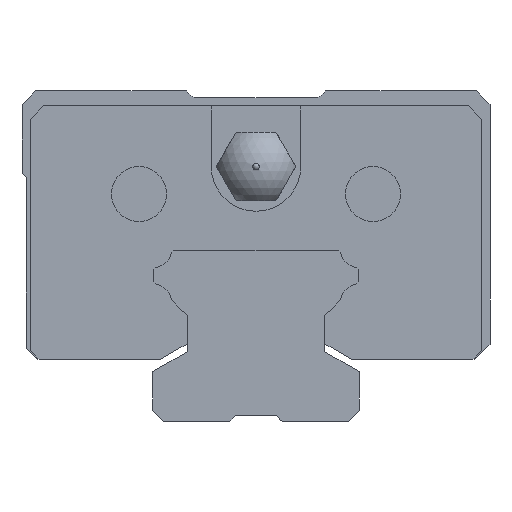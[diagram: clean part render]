
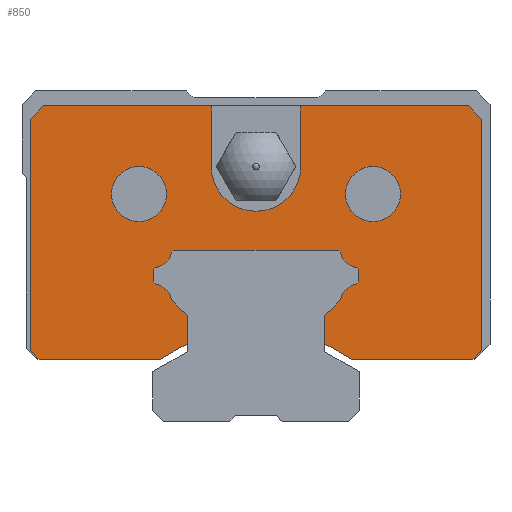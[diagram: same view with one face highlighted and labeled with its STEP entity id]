
A CAD part, front view. The second image highlights one B-rep face of the part: STEP entity #850.
In plain terms, the highlighted planar face has unit normal (0, -1, 0).
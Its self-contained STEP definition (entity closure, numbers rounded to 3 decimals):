
#213=PLANE('',#2619);
#347=LINE('',#3632,#605);
#352=LINE('',#3642,#610);
#355=LINE('',#3648,#613);
#358=LINE('',#3654,#616);
#362=LINE('',#3666,#620);
#365=LINE('',#3672,#623);
#368=LINE('',#3678,#626);
#372=LINE('',#3690,#630);
#375=LINE('',#3696,#633);
#378=LINE('',#3702,#636);
#382=LINE('',#3714,#640);
#385=LINE('',#3720,#643);
#388=LINE('',#3726,#646);
#392=LINE('',#3738,#650);
#395=LINE('',#3744,#653);
#398=LINE('',#3750,#656);
#406=LINE('',#3766,#664);
#447=LINE('',#3861,#705);
#449=LINE('',#3865,#707);
#451=LINE('',#3869,#709);
#456=LINE('',#3879,#714);
#458=LINE('',#3883,#716);
#459=LINE('',#3885,#717);
#461=LINE('',#3889,#719);
#462=LINE('',#3891,#720);
#463=LINE('',#3900,#721);
#464=LINE('',#3901,#722);
#605=VECTOR('',#2968,1.);
#610=VECTOR('',#2975,1.);
#613=VECTOR('',#2980,1.);
#616=VECTOR('',#2985,1.);
#620=VECTOR('',#2997,1.);
#623=VECTOR('',#3002,1.);
#626=VECTOR('',#3007,1.);
#630=VECTOR('',#3019,1.);
#633=VECTOR('',#3024,1.);
#636=VECTOR('',#3029,1.);
#640=VECTOR('',#3041,1.);
#643=VECTOR('',#3046,1.);
#646=VECTOR('',#3051,1.);
#650=VECTOR('',#3063,1.);
#653=VECTOR('',#3068,1.);
#656=VECTOR('',#3073,1.);
#664=VECTOR('',#3083,1.);
#705=VECTOR('',#3166,1.);
#707=VECTOR('',#3170,1.);
#709=VECTOR('',#3172,1.);
#714=VECTOR('',#3179,1.);
#716=VECTOR('',#3183,1.);
#717=VECTOR('',#3186,1.);
#719=VECTOR('',#3190,1.);
#720=VECTOR('',#3193,1.);
#721=VECTOR('',#3202,1.);
#722=VECTOR('',#3203,1.);
#850=ADVANCED_FACE('',(#1021,#1022,#973),#213,.F.);
#973=FACE_OUTER_BOUND('',#1158,.T.);
#1021=FACE_BOUND('',#1156,.T.);
#1022=FACE_BOUND('',#1157,.T.);
#1156=EDGE_LOOP('',(#1697));
#1157=EDGE_LOOP('',(#1698));
#1158=EDGE_LOOP('',(#1699,#1700,#1701,#1702,#1703,#1704,#1705,#1706,#1707,
#1708,#1709,#1710,#1711,#1712,#1713,#1714,#1715,#1716,#1717,#1718,#1719,
#1720,#1721,#1722,#1723,#1724,#1725,#1726,#1727,#1728,#1729,#1730));
#1697=ORIENTED_EDGE('',*,*,#2356,.F.);
#1698=ORIENTED_EDGE('',*,*,#2357,.F.);
#1699=ORIENTED_EDGE('',*,*,#2358,.F.);
#1700=ORIENTED_EDGE('',*,*,#2359,.T.);
#1701=ORIENTED_EDGE('',*,*,#2344,.F.);
#1702=ORIENTED_EDGE('',*,*,#2349,.F.);
#1703=ORIENTED_EDGE('',*,*,#2351,.T.);
#1704=ORIENTED_EDGE('',*,*,#2352,.T.);
#1705=ORIENTED_EDGE('',*,*,#2294,.F.);
#1706=ORIENTED_EDGE('',*,*,#2286,.F.);
#1707=ORIENTED_EDGE('',*,*,#2283,.F.);
#1708=ORIENTED_EDGE('',*,*,#2280,.T.);
#1709=ORIENTED_EDGE('',*,*,#2277,.T.);
#1710=ORIENTED_EDGE('',*,*,#2274,.T.);
#1711=ORIENTED_EDGE('',*,*,#2271,.F.);
#1712=ORIENTED_EDGE('',*,*,#2268,.F.);
#1713=ORIENTED_EDGE('',*,*,#2265,.T.);
#1714=ORIENTED_EDGE('',*,*,#2262,.F.);
#1715=ORIENTED_EDGE('',*,*,#2259,.T.);
#1716=ORIENTED_EDGE('',*,*,#2256,.T.);
#1717=ORIENTED_EDGE('',*,*,#2253,.T.);
#1718=ORIENTED_EDGE('',*,*,#2250,.T.);
#1719=ORIENTED_EDGE('',*,*,#2247,.T.);
#1720=ORIENTED_EDGE('',*,*,#2244,.F.);
#1721=ORIENTED_EDGE('',*,*,#2241,.T.);
#1722=ORIENTED_EDGE('',*,*,#2238,.F.);
#1723=ORIENTED_EDGE('',*,*,#2235,.T.);
#1724=ORIENTED_EDGE('',*,*,#2232,.T.);
#1725=ORIENTED_EDGE('',*,*,#2227,.T.);
#1726=ORIENTED_EDGE('',*,*,#2354,.F.);
#1727=ORIENTED_EDGE('',*,*,#2355,.F.);
#1728=ORIENTED_EDGE('',*,*,#2340,.T.);
#1729=ORIENTED_EDGE('',*,*,#2342,.F.);
#1730=ORIENTED_EDGE('',*,*,#2360,.F.);
#1955=VERTEX_POINT('',#3631);
#1956=VERTEX_POINT('',#3633);
#1960=VERTEX_POINT('',#3643);
#1962=VERTEX_POINT('',#3649);
#1964=VERTEX_POINT('',#3655);
#1966=VERTEX_POINT('',#3661);
#1968=VERTEX_POINT('',#3667);
#1970=VERTEX_POINT('',#3673);
#1972=VERTEX_POINT('',#3679);
#1974=VERTEX_POINT('',#3685);
#1976=VERTEX_POINT('',#3691);
#1978=VERTEX_POINT('',#3697);
#1980=VERTEX_POINT('',#3703);
#1982=VERTEX_POINT('',#3709);
#1984=VERTEX_POINT('',#3715);
#1986=VERTEX_POINT('',#3721);
#1988=VERTEX_POINT('',#3727);
#1990=VERTEX_POINT('',#3733);
#1992=VERTEX_POINT('',#3739);
#1994=VERTEX_POINT('',#3745);
#1996=VERTEX_POINT('',#3751);
#2003=VERTEX_POINT('',#3767);
#2035=VERTEX_POINT('',#3860);
#2036=VERTEX_POINT('',#3862);
#2037=VERTEX_POINT('',#3866);
#2038=VERTEX_POINT('',#3868);
#2039=VERTEX_POINT('',#3870);
#2042=VERTEX_POINT('',#3878);
#2043=VERTEX_POINT('',#3882);
#2044=VERTEX_POINT('',#3888);
#2045=VERTEX_POINT('',#3894);
#2046=VERTEX_POINT('',#3896);
#2047=VERTEX_POINT('',#3898);
#2048=VERTEX_POINT('',#3899);
#2227=EDGE_CURVE('',#1956,#1955,#347,.T.);
#2232=EDGE_CURVE('',#1960,#1956,#352,.T.);
#2235=EDGE_CURVE('',#1962,#1960,#355,.T.);
#2238=EDGE_CURVE('',#1962,#1964,#358,.T.);
#2241=EDGE_CURVE('',#1966,#1964,#2434,.T.);
#2244=EDGE_CURVE('',#1966,#1968,#362,.T.);
#2247=EDGE_CURVE('',#1970,#1968,#365,.T.);
#2250=EDGE_CURVE('',#1972,#1970,#368,.T.);
#2253=EDGE_CURVE('',#1974,#1972,#2436,.T.);
#2256=EDGE_CURVE('',#1976,#1974,#372,.T.);
#2259=EDGE_CURVE('',#1978,#1976,#375,.T.);
#2262=EDGE_CURVE('',#1978,#1980,#378,.T.);
#2265=EDGE_CURVE('',#1982,#1980,#2438,.T.);
#2268=EDGE_CURVE('',#1982,#1984,#382,.T.);
#2271=EDGE_CURVE('',#1984,#1986,#385,.T.);
#2274=EDGE_CURVE('',#1988,#1986,#388,.T.);
#2277=EDGE_CURVE('',#1990,#1988,#2440,.T.);
#2280=EDGE_CURVE('',#1992,#1990,#392,.T.);
#2283=EDGE_CURVE('',#1992,#1994,#395,.T.);
#2286=EDGE_CURVE('',#1994,#1996,#398,.T.);
#2294=EDGE_CURVE('',#1996,#2003,#406,.T.);
#2340=EDGE_CURVE('',#2036,#2035,#447,.T.);
#2342=EDGE_CURVE('',#2037,#2035,#449,.T.);
#2344=EDGE_CURVE('',#2038,#2039,#451,.T.);
#2349=EDGE_CURVE('',#2042,#2038,#456,.T.);
#2351=EDGE_CURVE('',#2042,#2043,#458,.T.);
#2352=EDGE_CURVE('',#2043,#2003,#459,.T.);
#2354=EDGE_CURVE('',#2044,#1955,#461,.T.);
#2355=EDGE_CURVE('',#2036,#2044,#462,.T.);
#2356=EDGE_CURVE('',#2045,#2045,#2447,.T.);
#2357=EDGE_CURVE('',#2046,#2046,#2448,.T.);
#2358=EDGE_CURVE('',#2047,#2048,#2449,.T.);
#2359=EDGE_CURVE('',#2047,#2039,#463,.T.);
#2360=EDGE_CURVE('',#2048,#2037,#464,.T.);
#2434=CIRCLE('',#2564,1.55);
#2436=CIRCLE('',#2570,1.55);
#2438=CIRCLE('',#2576,1.55);
#2440=CIRCLE('',#2582,1.55);
#2447=CIRCLE('',#2616,2.);
#2448=CIRCLE('',#2617,2.);
#2449=CIRCLE('',#2618,3.25);
#2564=AXIS2_PLACEMENT_3D('',#3660,#2990,#2991);
#2570=AXIS2_PLACEMENT_3D('',#3684,#3012,#3013);
#2576=AXIS2_PLACEMENT_3D('',#3708,#3034,#3035);
#2582=AXIS2_PLACEMENT_3D('',#3732,#3056,#3057);
#2616=AXIS2_PLACEMENT_3D('',#3893,#3196,#3197);
#2617=AXIS2_PLACEMENT_3D('',#3895,#3198,#3199);
#2618=AXIS2_PLACEMENT_3D('',#3897,#3200,#3201);
#2619=AXIS2_PLACEMENT_3D('',#3902,#3204,#3205);
#2968=DIRECTION('',(1.,0.,0.));
#2975=DIRECTION('',(0.866,0.,-0.5));
#2980=DIRECTION('',(0.,0.,-1.));
#2985=DIRECTION('',(0.707,0.,0.707));
#2990=DIRECTION('',(0.,-1.,0.));
#2991=DIRECTION('',(1.,0.,0.));
#2997=DIRECTION('',(0.707,0.,0.707));
#3002=DIRECTION('',(0.,0.,-1.));
#3007=DIRECTION('',(0.707,0.,-0.707));
#3012=DIRECTION('',(0.,-1.,0.));
#3013=DIRECTION('',(1.,0.,0.));
#3019=DIRECTION('',(0.707,0.,-0.707));
#3024=DIRECTION('',(1.,0.,0.));
#3029=DIRECTION('',(-0.707,0.,-0.707));
#3034=DIRECTION('',(0.,-1.,0.));
#3035=DIRECTION('',(1.,0.,0.));
#3041=DIRECTION('',(-0.707,0.,-0.707));
#3046=DIRECTION('',(0.,0.,-1.));
#3051=DIRECTION('',(-0.707,0.,0.707));
#3056=DIRECTION('',(0.,-1.,0.));
#3057=DIRECTION('',(1.,0.,0.));
#3063=DIRECTION('',(-0.707,0.,0.707));
#3068=DIRECTION('',(0.,0.,-1.));
#3073=DIRECTION('',(-0.866,0.,-0.5));
#3083=DIRECTION('',(-1.,0.,0.));
#3166=DIRECTION('',(-0.707,0.,0.707));
#3170=DIRECTION('',(1.,0.,0.));
#3172=DIRECTION('',(1.,0.,0.));
#3179=DIRECTION('',(0.707,0.,0.707));
#3183=DIRECTION('',(0.,0.,-1.));
#3186=DIRECTION('',(0.707,0.,-0.707));
#3190=DIRECTION('',(-0.707,0.,-0.707));
#3193=DIRECTION('',(0.,0.,-1.));
#3196=DIRECTION('',(0.,-1.,0.));
#3197=DIRECTION('',(0.,0.,-1.));
#3198=DIRECTION('',(0.,-1.,0.));
#3199=DIRECTION('',(0.,0.,-1.));
#3200=DIRECTION('',(0.,-1.,0.));
#3201=DIRECTION('',(1.,0.,0.));
#3202=DIRECTION('',(0.,0.,1.));
#3203=DIRECTION('',(0.,0.,1.));
#3204=DIRECTION('',(0.,1.,0.));
#3205=DIRECTION('',(0.,0.,1.));
#3631=CARTESIAN_POINT('',(15.759,-20.,4.1));
#3632=CARTESIAN_POINT('',(6.941,-20.,4.1));
#3633=CARTESIAN_POINT('',(6.941,-20.,4.1));
#3642=CARTESIAN_POINT('',(4.93,-20.,5.261));
#3643=CARTESIAN_POINT('',(4.93,-20.,5.261));
#3648=CARTESIAN_POINT('',(4.93,-20.,7.214));
#3649=CARTESIAN_POINT('',(4.93,-20.,7.214));
#3654=CARTESIAN_POINT('',(4.93,-20.,7.214));
#3655=CARTESIAN_POINT('',(6.131,-20.,8.415));
#3660=CARTESIAN_POINT('',(7.64,-20.,8.06));
#3661=CARTESIAN_POINT('',(7.285,-20.,9.569));
#3666=CARTESIAN_POINT('',(7.285,-20.,9.569));
#3667=CARTESIAN_POINT('',(7.43,-20.,9.714));
#3672=CARTESIAN_POINT('',(7.43,-20.,10.586));
#3673=CARTESIAN_POINT('',(7.43,-20.,10.586));
#3678=CARTESIAN_POINT('',(7.285,-20.,10.731));
#3679=CARTESIAN_POINT('',(7.285,-20.,10.731));
#3684=CARTESIAN_POINT('',(7.64,-20.,12.24));
#3685=CARTESIAN_POINT('',(6.131,-20.,11.885));
#3690=CARTESIAN_POINT('',(5.986,-20.,12.03));
#3691=CARTESIAN_POINT('',(5.986,-20.,12.03));
#3696=CARTESIAN_POINT('',(-5.986,-20.,12.03));
#3697=CARTESIAN_POINT('',(-5.986,-20.,12.03));
#3702=CARTESIAN_POINT('',(-5.986,-20.,12.03));
#3703=CARTESIAN_POINT('',(-6.131,-20.,11.885));
#3708=CARTESIAN_POINT('',(-7.64,-20.,12.24));
#3709=CARTESIAN_POINT('',(-7.285,-20.,10.731));
#3714=CARTESIAN_POINT('',(-7.285,-20.,10.731));
#3715=CARTESIAN_POINT('',(-7.43,-20.,10.586));
#3720=CARTESIAN_POINT('',(-7.43,-20.,10.586));
#3721=CARTESIAN_POINT('',(-7.43,-20.,9.714));
#3726=CARTESIAN_POINT('',(-7.285,-20.,9.569));
#3727=CARTESIAN_POINT('',(-7.285,-20.,9.569));
#3732=CARTESIAN_POINT('',(-7.64,-20.,8.06));
#3733=CARTESIAN_POINT('',(-6.131,-20.,8.415));
#3738=CARTESIAN_POINT('',(-4.93,-20.,7.214));
#3739=CARTESIAN_POINT('',(-4.93,-20.,7.214));
#3744=CARTESIAN_POINT('',(-4.93,-20.,7.214));
#3745=CARTESIAN_POINT('',(-4.93,-20.,5.261));
#3750=CARTESIAN_POINT('',(-4.93,-20.,5.261));
#3751=CARTESIAN_POINT('',(-6.941,-20.,4.1));
#3766=CARTESIAN_POINT('',(-6.941,-20.,4.1));
#3767=CARTESIAN_POINT('',(-15.759,-20.,4.1));
#3860=CARTESIAN_POINT('',(15.45,-20.,22.5));
#3861=CARTESIAN_POINT('',(16.4,-20.,21.55));
#3862=CARTESIAN_POINT('',(16.4,-20.,21.55));
#3865=CARTESIAN_POINT('',(-15.45,-20.,22.5));
#3866=CARTESIAN_POINT('',(3.25,-20.,22.5));
#3868=CARTESIAN_POINT('',(-15.45,-20.,22.5));
#3869=CARTESIAN_POINT('',(-15.45,-20.,22.5));
#3870=CARTESIAN_POINT('',(-3.25,-20.,22.5));
#3878=CARTESIAN_POINT('',(-16.4,-20.,21.55));
#3879=CARTESIAN_POINT('',(-16.4,-20.,21.55));
#3882=CARTESIAN_POINT('',(-16.4,-20.,4.741));
#3883=CARTESIAN_POINT('',(-16.4,-20.,21.55));
#3885=CARTESIAN_POINT('',(-16.4,-20.,4.741));
#3888=CARTESIAN_POINT('',(16.4,-20.,4.741));
#3889=CARTESIAN_POINT('',(16.4,-20.,4.741));
#3891=CARTESIAN_POINT('',(16.4,-20.,21.55));
#3893=CARTESIAN_POINT('',(8.5,-20.,16.1));
#3894=CARTESIAN_POINT('',(8.5,-20.,14.1));
#3895=CARTESIAN_POINT('',(-8.5,-20.,16.1));
#3896=CARTESIAN_POINT('',(-8.5,-20.,14.1));
#3897=CARTESIAN_POINT('',(0.,-20.,18.1));
#3898=CARTESIAN_POINT('',(-3.25,-20.,18.1));
#3899=CARTESIAN_POINT('',(3.25,-20.,18.1));
#3900=CARTESIAN_POINT('',(-3.25,-20.,18.1));
#3901=CARTESIAN_POINT('',(3.25,-20.,18.1));
#3902=CARTESIAN_POINT('',(-7.64,-20.,8.06));
